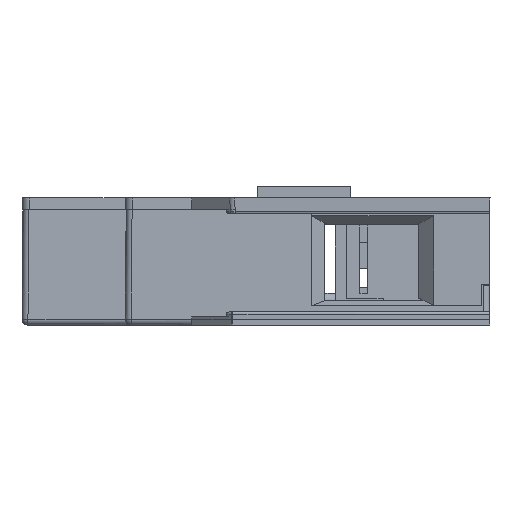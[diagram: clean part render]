
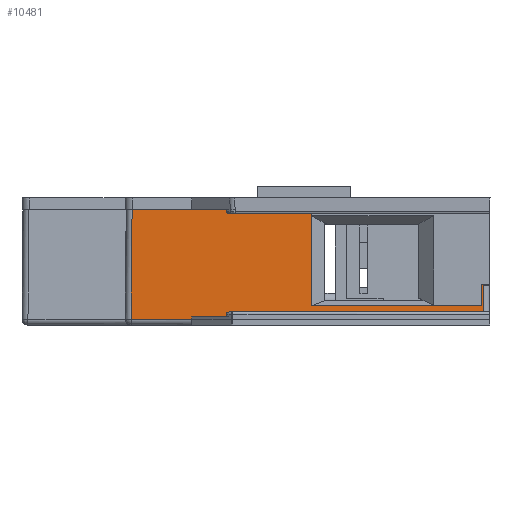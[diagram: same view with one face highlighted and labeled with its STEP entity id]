
A CAD part, left-side view. The second image highlights one B-rep face of the part: STEP entity #10481.
In plain terms, the highlighted planar face has unit normal (-1, 0, 0.009).
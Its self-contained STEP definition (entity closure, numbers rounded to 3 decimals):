
#749 = B_SPLINE_CURVE_WITH_KNOTS ( 'NONE', 3,
 ( #32408, #7636, #23280, #4445 ),
 .UNSPECIFIED., .F., .F.,
 ( 4, 4 ),
 ( 0., 1. ),
 .UNSPECIFIED. ) ;
#1850 = B_SPLINE_CURVE_WITH_KNOTS ( 'NONE', 3,
 ( #16078, #38302, #3459, #13303 ),
 .UNSPECIFIED., .F., .F.,
 ( 4, 4 ),
 ( 0., 1. ),
 .UNSPECIFIED. ) ;
#1941 = CARTESIAN_POINT ( 'NONE',  ( -78.154, 47.111, 90.338 ) ) ;
#1975 = VERTEX_POINT ( 'NONE', #37643 ) ;
#1982 = CARTESIAN_POINT ( 'NONE',  ( -78.064, 94.743, 100.638 ) ) ;
#2020 = ORIENTED_EDGE ( 'NONE', *, *, #16984, .T. ) ;
#2751 = AXIS2_PLACEMENT_3D ( 'NONE', #17454, #7329, #17314 ) ;
#3323 = VERTEX_POINT ( 'NONE', #6558 ) ;
#3459 = CARTESIAN_POINT ( 'NONE',  ( -78.194, 60.218, 85.745 ) ) ;
#3995 = B_SPLINE_CURVE_WITH_KNOTS ( 'NONE', 3,
 ( #12045, #36771, #27503, #8304 ),
 .UNSPECIFIED., .F., .F.,
 ( 4, 4 ),
 ( 0., 1. ),
 .UNSPECIFIED. ) ;
#4084 = CARTESIAN_POINT ( 'NONE',  ( -78.194, 86.68, 85.745 ) ) ;
#4445 = CARTESIAN_POINT ( 'NONE',  ( -78.154, 47.28, 90.338 ) ) ;
#5745 = CARTESIAN_POINT ( 'NONE',  ( -78.178, 70.457, 87.547 ) ) ;
#6558 = CARTESIAN_POINT ( 'NONE',  ( -78.154, 47.28, 90.338 ) ) ;
#7329 = DIRECTION ( 'NONE',  ( -1., 0., 0.009 ) ) ;
#7415 = CARTESIAN_POINT ( 'NONE',  ( -78.194, 89.411, 85.745 ) ) ;
#7636 = CARTESIAN_POINT ( 'NONE',  ( -78.17, 47.28, 88.477 ) ) ;
#8304 = CARTESIAN_POINT ( 'NONE',  ( -78.194, 94.873, 85.745 ) ) ;
#8511 = B_SPLINE_CURVE_WITH_KNOTS ( 'NONE', 3,
 ( #25629, #22071, #28802, #9895 ),
 .UNSPECIFIED., .F., .F.,
 ( 4, 4 ),
 ( 0., 1. ),
 .UNSPECIFIED. ) ;
#9168 = B_SPLINE_CURVE_WITH_KNOTS ( 'NONE', 3,
 ( #30442, #1941, #14568, #20891 ),
 .UNSPECIFIED., .F., .F.,
 ( 4, 4 ),
 ( 0., 1. ),
 .UNSPECIFIED. ) ;
#9741 = CARTESIAN_POINT ( 'NONE',  ( -78.178, 70.457, 87.547 ) ) ;
#9895 = CARTESIAN_POINT ( 'NONE',  ( -78.191, 46.988, 86.045 ) ) ;
#10481 = ADVANCED_FACE ( 'NONE', ( #39604 ), #32503, .T. ) ;
#11272 = ORIENTED_EDGE ( 'NONE', *, *, #12416, .T. ) ;
#11765 = EDGE_CURVE ( 'NONE', #38624, #3323, #749, .T. ) ;
#12045 = CARTESIAN_POINT ( 'NONE',  ( -78.064, 94.743, 100.638 ) ) ;
#12126 = VERTEX_POINT ( 'NONE', #40403 ) ;
#12237 = CARTESIAN_POINT ( 'NONE',  ( -78.191, 46.988, 86.045 ) ) ;
#12416 = EDGE_CURVE ( 'NONE', #1975, #33006, #1850, .T. ) ;
#13303 = CARTESIAN_POINT ( 'NONE',  ( -78.194, 46.987, 85.745 ) ) ;
#14252 = CARTESIAN_POINT ( 'NONE',  ( -78.064, 70.343, 100.638 ) ) ;
#14336 = EDGE_CURVE ( 'NONE', #15808, #15580, #26267, .T. ) ;
#14568 = CARTESIAN_POINT ( 'NONE',  ( -78.154, 47.195, 90.338 ) ) ;
#14618 = VERTEX_POINT ( 'NONE', #33994 ) ;
#14881 = CARTESIAN_POINT ( 'NONE',  ( -78.064, 78.476, 100.638 ) ) ;
#14985 = EDGE_CURVE ( 'NONE', #15580, #3323, #9168, .T. ) ;
#15580 = VERTEX_POINT ( 'NONE', #20280 ) ;
#15808 = VERTEX_POINT ( 'NONE', #12237 ) ;
#16078 = CARTESIAN_POINT ( 'NONE',  ( -78.194, 86.68, 85.745 ) ) ;
#16984 = EDGE_CURVE ( 'NONE', #38624, #28669, #32730, .T. ) ;
#17037 = CARTESIAN_POINT ( 'NONE',  ( -78.166, 47.014, 88.907 ) ) ;
#17314 = DIRECTION ( 'NONE',  ( 0., 1., 0. ) ) ;
#17361 = CARTESIAN_POINT ( 'NONE',  ( -78.064, 70.343, 100.638 ) ) ;
#17453 = B_SPLINE_CURVE_WITH_KNOTS ( 'NONE', 3,
 ( #1982, #24123, #14881, #17361 ),
 .UNSPECIFIED., .F., .F.,
 ( 4, 4 ),
 ( 0., 1. ),
 .UNSPECIFIED. ) ;
#17454 = CARTESIAN_POINT ( 'NONE',  ( -78.201, 46.18, 84.938 ) ) ;
#17561 = CARTESIAN_POINT ( 'NONE',  ( -78.14, 70.419, 91.91 ) ) ;
#17567 = ORIENTED_EDGE ( 'NONE', *, *, #14985, .T. ) ;
#20054 = EDGE_CURVE ( 'NONE', #33006, #15808, #8511, .T. ) ;
#20280 = CARTESIAN_POINT ( 'NONE',  ( -78.154, 47.027, 90.338 ) ) ;
#20317 = CARTESIAN_POINT ( 'NONE',  ( -78.179, 47.002, 87.476 ) ) ;
#20891 = CARTESIAN_POINT ( 'NONE',  ( -78.154, 47.28, 90.338 ) ) ;
#21260 = CARTESIAN_POINT ( 'NONE',  ( -78.064, 94.743, 100.638 ) ) ;
#21391 = CARTESIAN_POINT ( 'NONE',  ( -78.178, 55.005, 87.547 ) ) ;
#22071 = CARTESIAN_POINT ( 'NONE',  ( -78.193, 46.987, 85.845 ) ) ;
#22438 = EDGE_CURVE ( 'NONE', #1975, #12126, #25991, .T. ) ;
#22615 = VERTEX_POINT ( 'NONE', #21260 ) ;
#23280 = CARTESIAN_POINT ( 'NONE',  ( -78.162, 47.28, 89.407 ) ) ;
#24123 = CARTESIAN_POINT ( 'NONE',  ( -78.064, 86.609, 100.638 ) ) ;
#25134 = ORIENTED_EDGE ( 'NONE', *, *, #14336, .T. ) ;
#25629 = CARTESIAN_POINT ( 'NONE',  ( -78.194, 46.987, 85.745 ) ) ;
#25991 = B_SPLINE_CURVE_WITH_KNOTS ( 'NONE', 3,
 ( #4084, #7415, #29257, #29680 ),
 .UNSPECIFIED., .F., .F.,
 ( 4, 4 ),
 ( 0., 1. ),
 .UNSPECIFIED. ) ;
#26127 = CARTESIAN_POINT ( 'NONE',  ( -78.191, 46.988, 86.045 ) ) ;
#26267 = B_SPLINE_CURVE_WITH_KNOTS ( 'NONE', 3,
 ( #26127, #20317, #17037, #26391 ),
 .UNSPECIFIED., .F., .F.,
 ( 4, 4 ),
 ( 0., 1. ),
 .UNSPECIFIED. ) ;
#26391 = CARTESIAN_POINT ( 'NONE',  ( -78.154, 47.027, 90.338 ) ) ;
#26589 = ORIENTED_EDGE ( 'NONE', *, *, #20054, .T. ) ;
#27442 = ORIENTED_EDGE ( 'NONE', *, *, #34666, .F. ) ;
#27503 = CARTESIAN_POINT ( 'NONE',  ( -78.151, 94.829, 90.709 ) ) ;
#28054 = ORIENTED_EDGE ( 'NONE', *, *, #37433, .T. ) ;
#28669 = VERTEX_POINT ( 'NONE', #9741 ) ;
#28802 = CARTESIAN_POINT ( 'NONE',  ( -78.192, 46.987, 85.945 ) ) ;
#29178 = ORIENTED_EDGE ( 'NONE', *, *, #22438, .F. ) ;
#29257 = CARTESIAN_POINT ( 'NONE',  ( -78.194, 92.142, 85.745 ) ) ;
#29650 = CARTESIAN_POINT ( 'NONE',  ( -78.194, 46.987, 85.745 ) ) ;
#29680 = CARTESIAN_POINT ( 'NONE',  ( -78.194, 94.873, 85.745 ) ) ;
#30442 = CARTESIAN_POINT ( 'NONE',  ( -78.154, 47.027, 90.338 ) ) ;
#31451 = ORIENTED_EDGE ( 'NONE', *, *, #32470, .F. ) ;
#32408 = CARTESIAN_POINT ( 'NONE',  ( -78.178, 47.28, 87.547 ) ) ;
#32470 = EDGE_CURVE ( 'NONE', #14618, #28669, #33502, .T. ) ;
#32503 = PLANE ( 'NONE',  #2751 ) ;
#32663 = EDGE_LOOP ( 'NONE', ( #28054, #29178, #11272, #26589, #25134, #17567, #33799, #2020, #31451, #27442 ) ) ;
#32730 = B_SPLINE_CURVE_WITH_KNOTS ( 'NONE', 3,
 ( #34233, #21391, #33950, #5745 ),
 .UNSPECIFIED., .F., .F.,
 ( 4, 4 ),
 ( 0., 1. ),
 .UNSPECIFIED. ) ;
#33006 = VERTEX_POINT ( 'NONE', #29650 ) ;
#33502 = B_SPLINE_CURVE_WITH_KNOTS ( 'NONE', 3,
 ( #14252, #36625, #17561, #36485 ),
 .UNSPECIFIED., .F., .F.,
 ( 4, 4 ),
 ( 0., 1. ),
 .UNSPECIFIED. ) ;
#33799 = ORIENTED_EDGE ( 'NONE', *, *, #11765, .F. ) ;
#33950 = CARTESIAN_POINT ( 'NONE',  ( -78.178, 62.731, 87.547 ) ) ;
#33994 = CARTESIAN_POINT ( 'NONE',  ( -78.064, 70.343, 100.638 ) ) ;
#34233 = CARTESIAN_POINT ( 'NONE',  ( -78.178, 47.28, 87.547 ) ) ;
#34666 = EDGE_CURVE ( 'NONE', #22615, #14618, #17453, .T. ) ;
#36485 = CARTESIAN_POINT ( 'NONE',  ( -78.178, 70.457, 87.547 ) ) ;
#36625 = CARTESIAN_POINT ( 'NONE',  ( -78.102, 70.381, 96.274 ) ) ;
#36771 = CARTESIAN_POINT ( 'NONE',  ( -78.107, 94.786, 95.673 ) ) ;
#37433 = EDGE_CURVE ( 'NONE', #22615, #12126, #3995, .T. ) ;
#37643 = CARTESIAN_POINT ( 'NONE',  ( -78.194, 86.68, 85.745 ) ) ;
#37840 = CARTESIAN_POINT ( 'NONE',  ( -78.178, 47.28, 87.547 ) ) ;
#38302 = CARTESIAN_POINT ( 'NONE',  ( -78.194, 73.449, 85.745 ) ) ;
#38624 = VERTEX_POINT ( 'NONE', #37840 ) ;
#39604 = FACE_OUTER_BOUND ( 'NONE', #32663, .T. ) ;
#40403 = CARTESIAN_POINT ( 'NONE',  ( -78.194, 94.873, 85.745 ) ) ;
